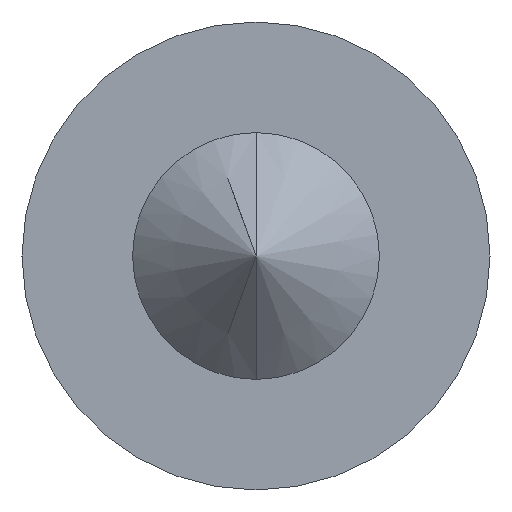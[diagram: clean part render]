
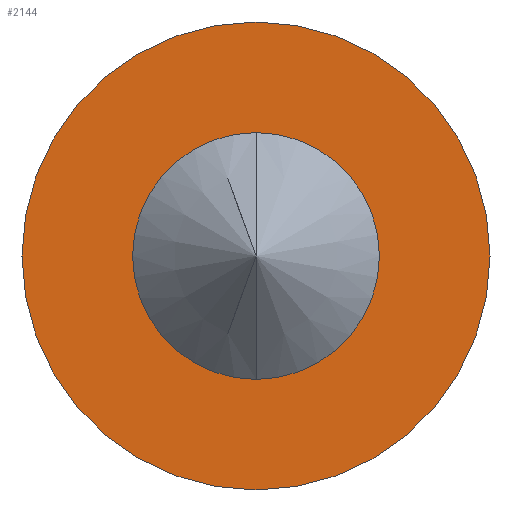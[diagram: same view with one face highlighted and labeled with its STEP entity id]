
A CAD part, left-side view. The second image highlights one B-rep face of the part: STEP entity #2144.
In plain terms, the highlighted planar face has unit normal (-1, 0, 0).
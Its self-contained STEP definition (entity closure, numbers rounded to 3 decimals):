
#107 = DIRECTION ( 'NONE',  ( -1., 0., 0. ) ) ;
#185 = ORIENTED_EDGE ( 'NONE', *, *, #3392, .T. ) ;
#331 = CIRCLE ( 'NONE', #2190, 1.25 ) ;
#335 = CARTESIAN_POINT ( 'NONE',  ( 1.956, 0., 0. ) ) ;
#512 = EDGE_LOOP ( 'NONE', ( #1164, #1681 ) ) ;
#653 = DIRECTION ( 'NONE',  ( 0., 0., 1. ) ) ;
#814 = FACE_OUTER_BOUND ( 'NONE', #3558, .T. ) ;
#854 = VERTEX_POINT ( 'NONE', #1085 ) ;
#867 = EDGE_CURVE ( 'NONE', #1292, #854, #331, .T. ) ;
#883 = DIRECTION ( 'NONE',  ( 0., 0., -1. ) ) ;
#1085 = CARTESIAN_POINT ( 'NONE',  ( 1.956, 0., -1.25 ) ) ;
#1164 = ORIENTED_EDGE ( 'NONE', *, *, #867, .F. ) ;
#1257 = VERTEX_POINT ( 'NONE', #1573 ) ;
#1268 = AXIS2_PLACEMENT_3D ( 'NONE', #2430, #2764, #883 ) ;
#1292 = VERTEX_POINT ( 'NONE', #3770 ) ;
#1294 = AXIS2_PLACEMENT_3D ( 'NONE', #335, #2555, #653 ) ;
#1296 = EDGE_CURVE ( 'NONE', #854, #1292, #3550, .T. ) ;
#1454 = PLANE ( 'NONE',  #1268 ) ;
#1573 = CARTESIAN_POINT ( 'NONE',  ( 1.956, 0., -2.75 ) ) ;
#1626 = DIRECTION ( 'NONE',  ( 0., 0., 1. ) ) ;
#1632 = DIRECTION ( 'NONE',  ( -1., 0., 0. ) ) ;
#1681 = ORIENTED_EDGE ( 'NONE', *, *, #1296, .F. ) ;
#1932 = AXIS2_PLACEMENT_3D ( 'NONE', #3733, #1632, #3882 ) ;
#2008 = CARTESIAN_POINT ( 'NONE',  ( 1.956, 0., 0. ) ) ;
#2043 = DIRECTION ( 'NONE',  ( -1., 0., 0. ) ) ;
#2127 = CARTESIAN_POINT ( 'NONE',  ( 1.956, 0., 2.75 ) ) ;
#2144 = ADVANCED_FACE ( 'Cara1', ( #3300, #814 ), #1454, .F. ) ;
#2190 = AXIS2_PLACEMENT_3D ( 'NONE', #3895, #2043, #1626 ) ;
#2323 = DIRECTION ( 'NONE',  ( 0., 0., 1. ) ) ;
#2338 = CIRCLE ( 'NONE', #2346, 2.75 ) ;
#2346 = AXIS2_PLACEMENT_3D ( 'NONE', #2008, #107, #2323 ) ;
#2430 = CARTESIAN_POINT ( 'NONE',  ( 1.956, 1.25, 0. ) ) ;
#2474 = ORIENTED_EDGE ( 'NONE', *, *, #3365, .T. ) ;
#2555 = DIRECTION ( 'NONE',  ( -1., 0., 0. ) ) ;
#2764 = DIRECTION ( 'NONE',  ( 1., 0., 0. ) ) ;
#3148 = VERTEX_POINT ( 'NONE', #2127 ) ;
#3300 = FACE_BOUND ( 'NONE', #512, .T. ) ;
#3365 = EDGE_CURVE ( 'NONE', #3148, #1257, #3974, .T. ) ;
#3392 = EDGE_CURVE ( 'NONE', #1257, #3148, #2338, .T. ) ;
#3550 = CIRCLE ( 'NONE', #1294, 1.25 ) ;
#3558 = EDGE_LOOP ( 'NONE', ( #2474, #185 ) ) ;
#3733 = CARTESIAN_POINT ( 'NONE',  ( 1.956, 0., 0. ) ) ;
#3770 = CARTESIAN_POINT ( 'NONE',  ( 1.956, 0., 1.25 ) ) ;
#3882 = DIRECTION ( 'NONE',  ( 0., 0., 1. ) ) ;
#3895 = CARTESIAN_POINT ( 'NONE',  ( 1.956, 0., 0. ) ) ;
#3974 = CIRCLE ( 'NONE', #1932, 2.75 ) ;
